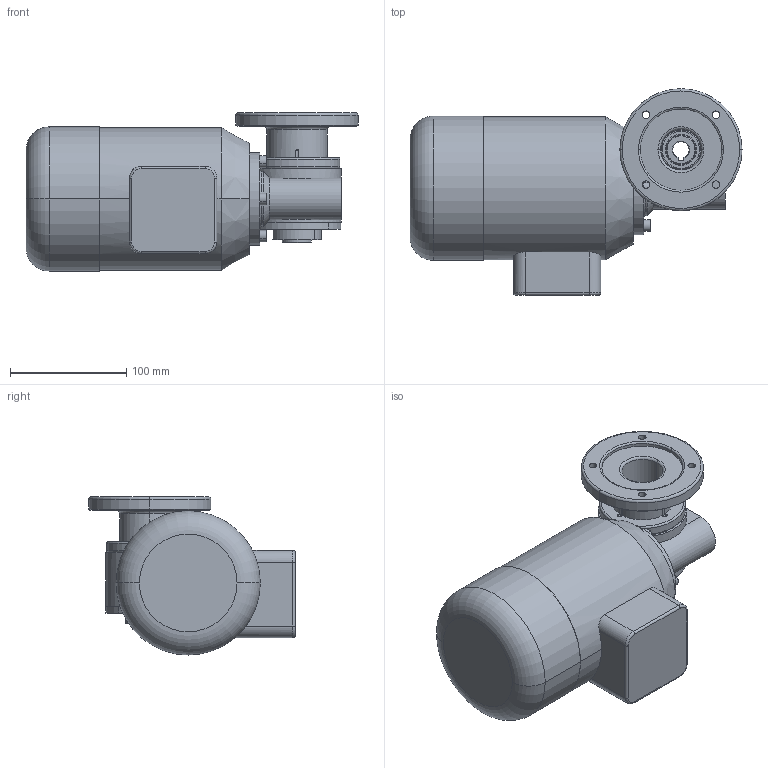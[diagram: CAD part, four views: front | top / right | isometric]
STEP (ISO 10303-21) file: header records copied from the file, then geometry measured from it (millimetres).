
FILE_DESCRIPTION (( 'STEP AP214' ), '1' );
FILE_NAME ('SN3BHFL_120W_180W_250W_C.STEP', '2021-03-16T13:33:59', ( '' ), ( '' ), 'SwSTEP 2.0', 'SolidWorks 2019', '' );
FILE_SCHEMA (( 'AUTOMOTIVE_DESIGN' ));
Length unit declared in the file: millimetre
Products named in the file (3): SN3BHFL_120W_180W_250W_C_o_F_C; 03BH-F-007; SN3BHFL_120W_180W_250W_C
Assembly tree (2 placements, depth 2):
  SN3BHFL_120W_180W_250W_C
    SN3BHFL_120W_180W_250W_C_o_F_C
    03BH-F-007
Bounding box: 285.5 x 177.5 x 136 mm (x, y, z)
Volume: 132116.1 mm3; surface area: 174774.5 mm2
Topology: 1 solids, 18 shells, 308 faces, 794 edges, 499 vertices
Faces by surface type: cylinder 118, plane 93, cone 64, torus 33
Entity records: 12489 total; most frequent: CARTESIAN_POINT 1919, DIRECTION 1785, ORIENTED_EDGE 1428, EDGE_CURVE 788, AXIS2_PLACEMENT_3D 713, VERTEX_POINT 499, CIRCLE 399, EDGE_LOOP 363
